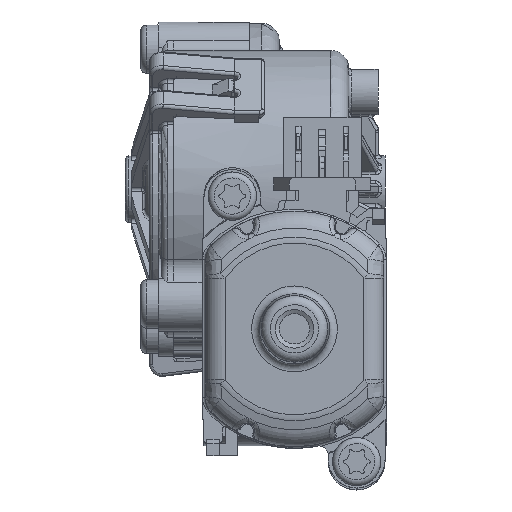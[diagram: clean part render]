
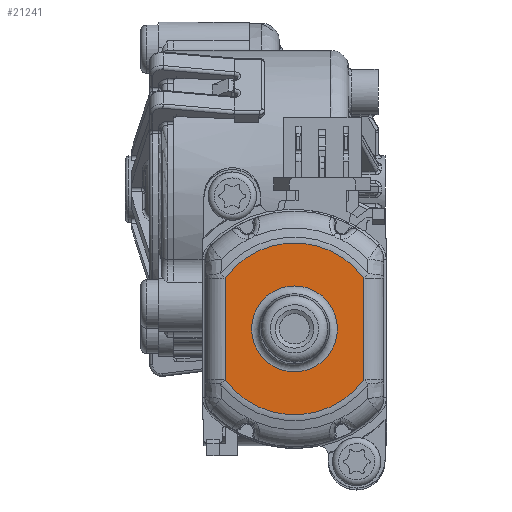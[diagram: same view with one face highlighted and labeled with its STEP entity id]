
A CAD part, front view. The second image highlights one B-rep face of the part: STEP entity #21241.
In plain terms, the highlighted planar face has unit normal (0, -1, 0).
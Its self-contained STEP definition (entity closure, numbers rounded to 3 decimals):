
#15434=FACE_BOUND('',#25521,.T.);
#15435=FACE_BOUND('',#25522,.T.);
#16733=PLANE('',#50880);
#17438=LINE('',#65393,#19382);
#17439=LINE('',#65394,#19383);
#19382=VECTOR('',#54777,1.);
#19383=VECTOR('',#54778,1.);
#21241=ADVANCED_FACE('',(#15434,#15435),#16733,.T.);
#25521=EDGE_LOOP('',(#30139));
#25522=EDGE_LOOP('',(#30140,#30141,#30142,#30143));
#30139=ORIENTED_EDGE('',*,*,#44096,.F.);
#30140=ORIENTED_EDGE('',*,*,#44142,.F.);
#30141=ORIENTED_EDGE('',*,*,#44153,.T.);
#30142=ORIENTED_EDGE('',*,*,#44111,.F.);
#30143=ORIENTED_EDGE('',*,*,#44154,.T.);
#40721=VERTEX_POINT('',#64779);
#40734=VERTEX_POINT('',#64941);
#40735=VERTEX_POINT('',#64942);
#40742=VERTEX_POINT('',#65029);
#40755=VERTEX_POINT('',#65256);
#44096=EDGE_CURVE('',#40721,#40721,#49204,.T.);
#44111=EDGE_CURVE('',#40734,#40735,#49205,.T.);
#44142=EDGE_CURVE('',#40755,#40742,#49208,.T.);
#44153=EDGE_CURVE('',#40755,#40735,#17438,.T.);
#44154=EDGE_CURVE('',#40734,#40742,#17439,.T.);
#49204=CIRCLE('',#50868,7.11);
#49205=CIRCLE('',#50871,14.237);
#49208=CIRCLE('',#50877,14.237);
#50868=AXIS2_PLACEMENT_3D('',#64778,#54753,#54754);
#50871=AXIS2_PLACEMENT_3D('',#64940,#54759,#54760);
#50877=AXIS2_PLACEMENT_3D('',#65257,#54771,#54772);
#50880=AXIS2_PLACEMENT_3D('',#65395,#54779,#54780);
#54753=DIRECTION('',(0.,-1.,0.));
#54754=DIRECTION('',(1.,0.,0.));
#54759=DIRECTION('',(0.,1.,0.));
#54760=DIRECTION('',(0.,0.,-1.));
#54771=DIRECTION('',(0.,1.,0.));
#54772=DIRECTION('',(1.,0.,0.));
#54777=DIRECTION('',(0.,0.,-1.));
#54778=DIRECTION('',(0.,0.,1.));
#54779=DIRECTION('',(0.,-1.,0.));
#54780=DIRECTION('',(1.,0.,0.));
#64778=CARTESIAN_POINT('',(0.,-78.6,0.));
#64779=CARTESIAN_POINT('',(7.11,-78.6,0.));
#64940=CARTESIAN_POINT('',(0.,-78.6,0.));
#64941=CARTESIAN_POINT('',(11.5,-78.6,-8.392));
#64942=CARTESIAN_POINT('',(-11.5,-78.6,-8.392));
#65029=CARTESIAN_POINT('',(11.5,-78.6,8.392));
#65256=CARTESIAN_POINT('',(-11.5,-78.6,8.392));
#65257=CARTESIAN_POINT('',(0.,-78.6,0.));
#65393=CARTESIAN_POINT('',(-11.5,-78.6,0.));
#65394=CARTESIAN_POINT('',(11.5,-78.6,0.));
#65395=CARTESIAN_POINT('',(0.,-78.6,0.));
